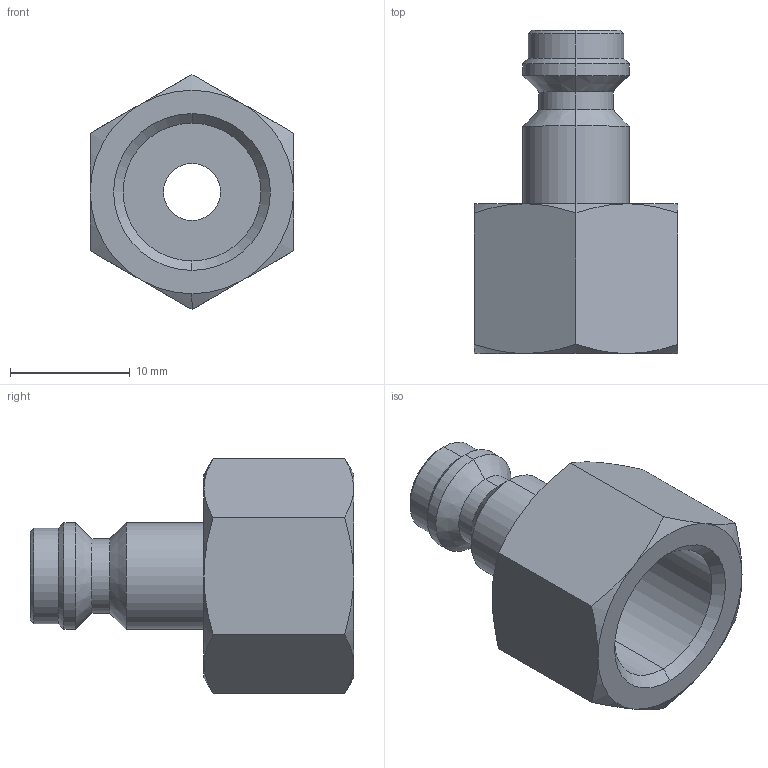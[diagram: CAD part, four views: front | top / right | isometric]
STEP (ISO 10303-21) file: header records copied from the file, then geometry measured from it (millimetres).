
FILE_DESCRIPTION (( 'STEP AP214' ), '1' );
FILE_NAME ('TZA-PF.STEP', '2022-04-26T15:58:31', ( '' ), ( '' ), 'SwSTEP 2.0', 'SolidWorks 2022', '' );
FILE_SCHEMA (( 'AUTOMOTIVE_DESIGN' ));
Length unit declared in the file: millimetre
Products named in the file (1): TZA-PF
Bounding box: 17 x 27 x 19.63 mm (x, y, z)
Volume: 2456 mm3; surface area: 2186.8 mm2
Topology: 1 solids, 1 shells, 46 faces, 96 edges, 54 vertices
Faces by surface type: cone 24, cylinder 12, plane 10
Entity records: 1842 total; most frequent: CARTESIAN_POINT 341, DIRECTION 208, ORIENTED_EDGE 192, EDGE_CURVE 96, AXIS2_PLACEMENT_3D 89, VERTEX_POINT 54, EDGE_LOOP 50, UNCERTAINTY_MEASURE_WITH_UNIT 49
